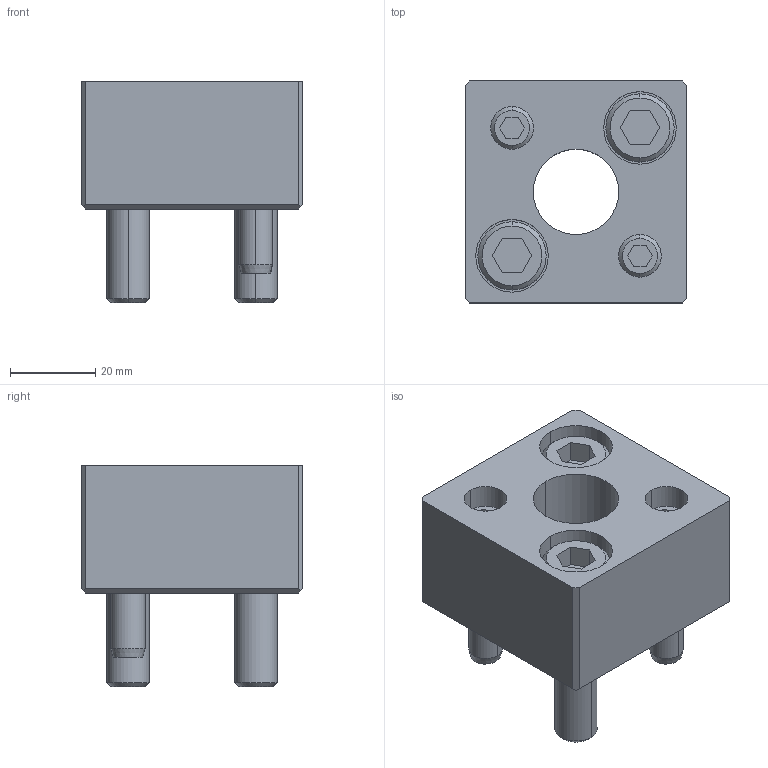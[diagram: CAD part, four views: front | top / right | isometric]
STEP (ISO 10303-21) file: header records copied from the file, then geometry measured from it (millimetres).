
FILE_DESCRIPTION(/* description */ (''),/* implementation_level */ '2;1');
FILE_NAME(/* name */ '3d_mpsr20_04611_r00.stp',/* time_stamp */ '2011-01-10T14:13:28+09:00',/* author */ ('MISUMI'),/* organization */ (''),/* preprocessor_version */ 'ST-DEVELOPER v11',/* originating_system */ 'UGS - NX 5.0',/* authorisation */ '');
FILE_SCHEMA (('CONFIG_CONTROL_DESIGN'));
Length unit declared in the file: millimetre
Products named in the file (1): 3d_mpsr20_04611_r00
Bounding box: 52 x 52 x 52 mm (x, y, z)
Volume: 71726.5 mm3; surface area: 23900.2 mm2
Topology: 7 solids, 7 shells, 139 faces, 306 edges, 196 vertices
Faces by surface type: plane 67, cylinder 46, cone 26
Entity records: 3950 total; most frequent: DIRECTION 698, CARTESIAN_POINT 684, ORIENTED_EDGE 612, EDGE_CURVE 306, AXIS2_PLACEMENT_3D 258, VERTEX_POINT 196, LINE 182, VECTOR 182
